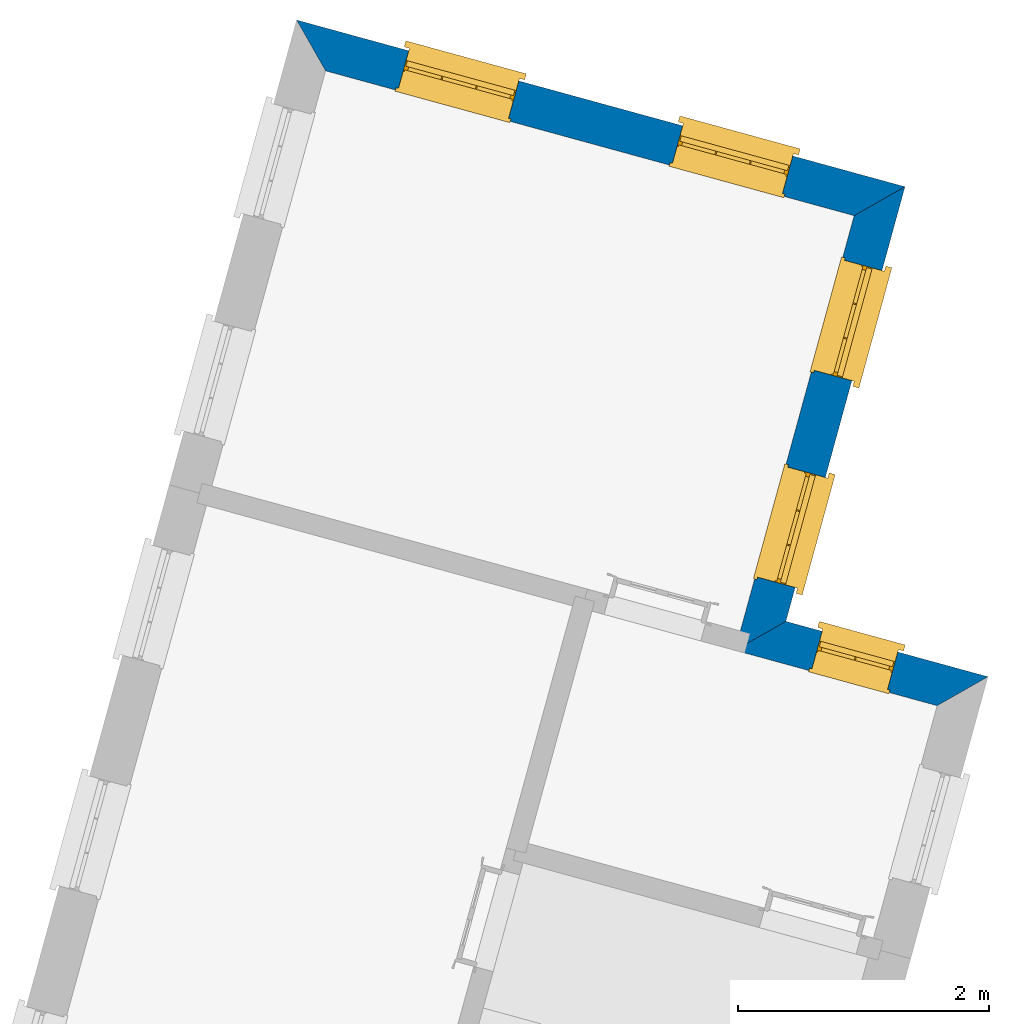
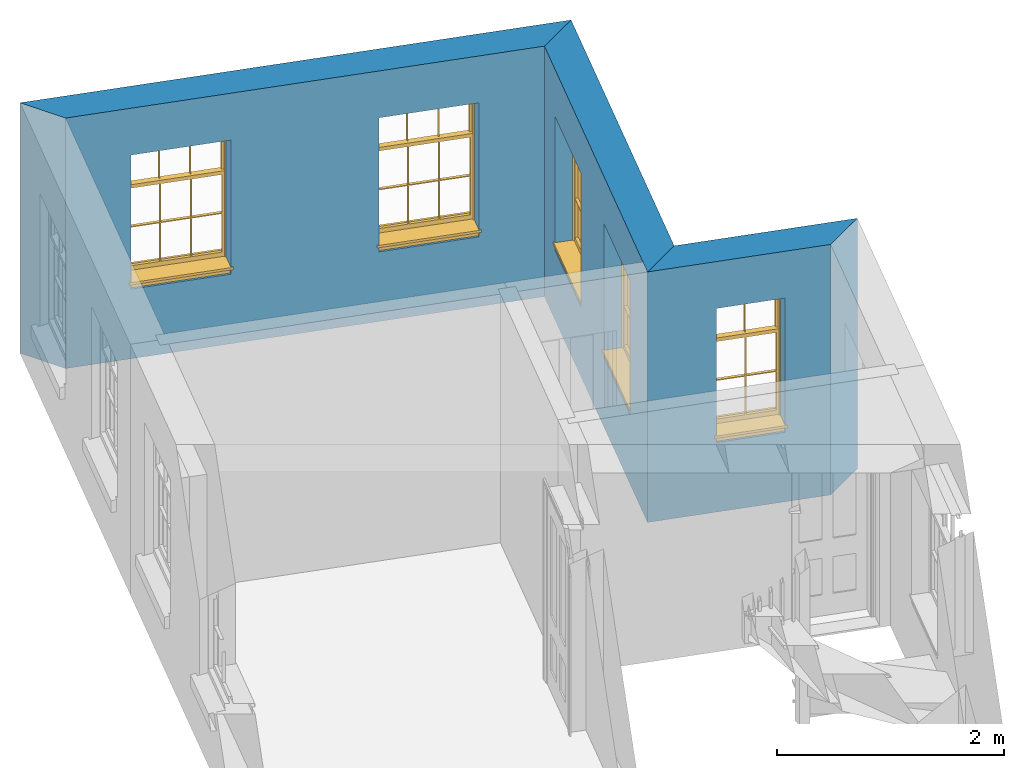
# One storey, part 3 of 4: 5 windows, 3 walls, 5 openings.
"""IFC4 building model written with IfcOpenShell, lengths in metres."""

from ifc_helpers import new_model, si_unit, frame, origin, origin_with_axes, place, context, subcontext, project, spatial, polyline, outline, extrude, faceted_brep, source, transform, mapped, material, layer, layer_set, layer_usage, type_object, type_shapes, element, fill, save


model = new_model("IFC4")

# Units and contexts
model_context = context("Model", 3, world=origin_with_axes())
body_context = subcontext(model_context, "Body", "Model", "MODEL_VIEW")
ifc_project = project(units=[si_unit("PLANEANGLEUNIT", "RADIAN"), si_unit("MASSUNIT", "GRAM", prefix="KILO"), si_unit("FORCEUNIT", "NEWTON", prefix="KILO"), si_unit("LENGTHUNIT", "METRE"), si_unit("AREAUNIT", "SQUARE_METRE"), si_unit("VOLUMEUNIT", "CUBIC_METRE")], contexts=[model_context, model_context])

# Sites, building, storey
site_1_placement = place(None, origin_with_axes())
site_1 = spatial("IfcSite", under=ifc_project, at=site_1_placement, Name="Tamar")
site_2_placement = place(site_1_placement, origin_with_axes())
site_2 = spatial("IfcSite", under=site_1, at=site_2_placement, Name="Site plot-28", CompositionType="ELEMENT")
building_placement = place(None, origin_with_axes())
building = spatial("IfcBuilding", under=site_2, at=building_placement, Name="Building plot-28", CompositionType="ELEMENT")
storey_placement = place(None, frame((0.0, 0.0, 27.15), z_axis=(0.0, 0.0, 1.0), x_axis=(1.0, 0.0, 0.0)))
storey = spatial("IfcBuildingStorey", under=building, at=storey_placement, Name="plot-28 1", CompositionType="ELEMENT", Elevation=27.15)

# Wall, opening, window
ifc_material = material(Name="Masonry")
ifc_layer = layer(ifc_material, 0.33, ventilated=False)
ifc_layer_set = layer_set([ifc_layer], Name="exterior_0.08_0.25")
ifc_layer_usage = layer_usage(ifc_layer_set, "AXIS2", "POSITIVE", -0.25)
wall_type = type_object("IfcWallType", Name="exterior_0.08_0.25", PredefinedType="SOLIDWALL", material=ifc_layer_set)
wall_1_placement = place(storey_placement, frame((266.580114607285, 263.559173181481, 0.0), z_axis=(0.0, 0.0, 1.0), x_axis=(-0.964452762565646, 0.264255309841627, 0.0)))
wall_1 = element("IfcWall", 1, at=wall_1_placement, inside=storey, type_object=wall_type, material=ifc_layer_usage, Name="exterior", context=body_context, shape_type="SweptSolid", body=[
    extrude(outline(polyline([(0.0799999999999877, 0.0800000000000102), (-0.24999999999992, -0.25000000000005), (1.42093948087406, -0.25000000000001), (1.75093948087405, 0.0799999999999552), (0.0799999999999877, 0.0800000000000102)])), origin_with_axes(), (0.0, 0.0, 1.0), 2.7),
])
opening_1_placement = place(wall_1_placement, frame((0.495939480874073, 0.0, 0.75)))
opening_1 = element("IfcOpeningElement", 2, at=opening_1_placement, cuts=wall_1, Name="My Opening", ObjectType="Opening", context=body_context, shape_type="SweptSolid", body=[
    extrude(outline(polyline([(0.0, -0.270000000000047), (0.62499999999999, -0.270000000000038), (0.625000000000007, 1.10000000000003), (1.63202784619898e-14, 1.10000000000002), (0.0, -0.270000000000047)])), origin_with_axes(), (0.0, 0.0, 1.0), 1.445),
])
window_type_1 = type_object("IfcWindowType", Name="sash_narrow_shorter", PartitioningType="DOUBLE_PANEL_HORIZONTAL", PredefinedType="NOTDEFINED")
shared_shape_1 = source(origin(), body_context, "Body", "Brep", [
    faceted_brep([(0.591875, 0.145, 0.999097), (0.591875, 0.145, 1.411875), (0.615, 0.145, 1.435), (0.033125, 0.145, 1.411875), (0.033125, 0.145, 0.999097), (0.01, 0.145, 1.435), (0.033125, 0.115, 1.411875), (0.01, 0.115, 1.435), (0.033125, 0.115, 0.999097), (0.591875, 0.115, 1.411875), (0.591875, 0.115, 0.999097), (0.615, 0.115, 1.435), (0.033125, 0.145, 0.960972), (0.01, 0.145, 0.960972), (0.033125, 0.145, 0.548195), (0.591875, 0.145, 0.960972), (0.591875, 0.145, 0.548195), (0.615, 0.145, 0.960972), (0.591875, 0.145, 0.538195), (0.591875, 0.145, 0.125417), (0.615, 0.145, 0.077167), (0.033125, 0.145, 0.125417), (0.033125, 0.145, 0.538195), (0.01, 0.145, 0.077167), (0.615, 0.115, 0.960972), (0.01, 0.115, 0.960972), (-0.0425, 0.0, 0.01), (-0.0425, -0.05, 0.001667), (0.0, 0.0, 0.01), (0.6675, 0.0, 0.01), (0.625, 0.0, 0.01), (0.6675, -0.05, 0.001667), (-0.02, 0.33, 0.077167), (0.0, 0.33, 0.077167), (-0.02, 0.36, 0.077167), (0.0, 0.19, 0.077167), (0.01, 0.19, 0.077167), (0.625, 0.19, 0.077167), (0.625, 0.33, 0.077167), (0.615, 0.19, 0.077167), (0.645, 0.33, 0.077167), (0.645, 0.36, 0.077167), (0.01, 0.145, 0.999097), (0.01, 0.175, 0.999097), (0.615, 0.145, 0.999097), (0.615, 0.175, 0.999097), (0.591875, 0.175, 0.125417), (0.591875, 0.175, 0.538195), (0.615, 0.175, 0.077167), (0.591875, 0.175, 0.548195), (0.591875, 0.175, 0.960972), (0.033125, 0.175, 0.125417), (0.01, 0.175, 0.077167), (0.033125, 0.175, 0.538195), (0.033125, 0.175, 0.960972), (0.033125, 0.175, 0.548195), (-0.02, 0.33, 0.052167), (-0.02, 0.36, 0.052167), (0.645, 0.36, 0.052167), (0.645, 0.33, 0.052167), (0.625, 0.33, 0.052167), (0.0, 0.33, 0.052167), (0.625, 0.1, 0.026667), (0.0, 0.1, 0.026667), (-0.0425, -0.05, -0.123333), (0.6675, -0.05, -0.123333), (-0.0425, 0.0, -0.123333), (0.6675, 0.0, -0.123333), (0.01, 0.19, 1.435), (0.615, 0.19, 1.435), (0.0, 0.19, 1.445), (0.625, 0.19, 1.445), (0.01, 0.1, 0.077167), (0.615, 0.1, 0.077167), (0.3175, 0.175, 0.548195), (0.3175, 0.145, 0.548195), (0.3175, 0.175, 0.538195), (0.3175, 0.175, 0.125417), (0.3075, 0.175, 0.125417), (0.3075, 0.175, 0.538195), (0.3075, 0.175, 0.548195), (0.3175, 0.175, 0.960972), (0.3075, 0.175, 0.960972), (0.3075, 0.145, 0.538195), (0.3075, 0.145, 0.125417), (0.3175, 0.145, 0.125417), (0.3175, 0.145, 0.538195), (0.3075, 0.145, 0.548195), (0.3075, 0.145, 0.960972), (0.3175, 0.145, 0.960972), (0.3175, 0.115, 1.411875), (0.3075, 0.115, 1.411875), (0.3075, 0.115, 0.999097), (0.3175, 0.115, 0.999097), (0.3175, 0.145, 0.999097), (0.3075, 0.145, 0.999097), (0.3075, 0.145, 1.411875), (0.3175, 0.145, 1.411875), (0.625, 0.1, 1.445), (0.615, 0.1, 1.435), (0.01, 0.1, 1.435), (0.0, 0.1, 1.445), (0.625, 0.0, 0.0), (0.0, 0.0, 0.0), (0.625, 0.33, 0.0), (0.0, 0.33, 0.0)], [[[0, 1, 2]], [[3, 4, 5]], [[6, 7, 8]], [[9, 10, 11]], [[12, 13, 14]], [[15, 16, 17]], [[18, 19, 20]], [[21, 22, 23]], [[24, 15, 17]], [[13, 12, 25]], [[26, 27, 28]], [[29, 30, 31]], [[32, 33, 34]], [[35, 36, 33]], [[37, 38, 39]], [[40, 41, 38]], [[42, 4, 43]], [[44, 45, 0]], [[46, 47, 48]], [[49, 50, 45]], [[51, 52, 53]], [[54, 55, 43]], [[38, 33, 36, 39]], [[41, 34, 33, 38]], [[56, 32, 34, 57]], [[57, 34, 41, 58]], [[58, 41, 40, 59]], [[57, 58, 60, 61]], [[52, 48, 39, 36]], [[62, 63, 28, 30]], [[27, 31, 30, 28]], [[27, 64, 65, 31]], [[66, 67, 65, 64]], [[2, 5, 68, 69]], [[68, 70, 71, 69]], [[20, 23, 72, 73]], [[73, 72, 63, 62]], [[16, 49, 74, 75]], [[76, 77, 78, 79]], [[80, 79, 53, 55]], [[81, 74, 80, 82]], [[76, 74, 49, 47]], [[83, 79, 78, 84]], [[22, 53, 79, 83]], [[85, 77, 76, 86]], [[87, 80, 55, 14]], [[88, 82, 80, 87]], [[75, 74, 81, 89]], [[86, 76, 47, 18]], [[86, 18, 16, 75]], [[86, 83, 84, 85]], [[87, 14, 22, 83]], [[89, 88, 87, 75]], [[90, 91, 92, 93]], [[94, 95, 96, 97]], [[91, 96, 95, 92]], [[93, 94, 97, 90]], [[74, 76, 79, 80]], [[75, 87, 83, 86]], [[84, 78, 51, 21]], [[6, 3, 96, 91]], [[90, 97, 1, 9]], [[19, 46, 77, 85]], [[26, 66, 64, 27]], [[29, 31, 65, 67]], [[25, 24, 93, 92]], [[11, 7, 91, 90]], [[77, 48, 52, 78]], [[43, 45, 81, 82]], [[45, 43, 95, 94]], [[5, 2, 97, 96]], [[24, 25, 88, 89]], [[42, 5, 4]], [[2, 44, 0]], [[49, 45, 48, 47]], [[52, 43, 55, 53]], [[14, 13, 23, 22]], [[20, 17, 16, 18]], [[24, 11, 10]], [[25, 8, 7]], [[8, 4, 3, 6]], [[9, 1, 0, 10]], [[15, 50, 49, 16]], [[18, 47, 46, 19]], [[21, 51, 53, 22]], [[14, 55, 54, 12]], [[44, 2, 69, 45]], [[68, 5, 42, 43]], [[36, 35, 70, 68]], [[39, 69, 71, 37]], [[62, 98, 99, 73]], [[63, 72, 100, 101]], [[8, 92, 95, 4]], [[93, 10, 0, 94]], [[82, 88, 12, 54]], [[17, 20, 73, 24]], [[72, 23, 13, 25]], [[52, 36, 68, 43]], [[69, 39, 48, 45]], [[11, 24, 73, 99]], [[7, 100, 72, 25]], [[84, 21, 23]], [[20, 19, 85]], [[20, 85, 84, 23]], [[24, 10, 93]], [[92, 8, 25]], [[90, 9, 11]], [[7, 6, 91]], [[96, 3, 5]], [[2, 1, 97]], [[11, 99, 100, 7]], [[98, 101, 100, 99]], [[82, 54, 43]], [[50, 81, 45]], [[15, 89, 81, 50]], [[77, 46, 48]], [[52, 51, 78]], [[89, 15, 24]], [[25, 12, 88]], [[43, 4, 95]], [[94, 0, 45]], [[71, 70, 101, 98]], [[70, 35, 63, 101]], [[98, 62, 37, 71]], [[102, 67, 66, 103]], [[60, 58, 59]], [[38, 60, 59, 40]], [[61, 56, 57]], [[32, 56, 61, 33]], [[61, 60, 104, 105]], [[62, 60, 38, 37]], [[102, 104, 60, 62]], [[33, 61, 63, 35]], [[61, 105, 103, 63]], [[104, 102, 103, 105]], [[28, 103, 66, 26]], [[63, 103, 28]], [[29, 67, 102, 30]], [[30, 102, 62]]]),
])
type_shapes(window_type_1, [shared_shape_1])
window_1_placement = place(storey_placement, frame((266.173153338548, 263.950630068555, 0.75), z_axis=(0.0, 0.0, 1.0), x_axis=(-0.602782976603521, 0.165159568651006, 0.0)))
window_1 = element("IfcWindow", 3, at=window_1_placement, inside=storey, type_object=window_type_1, Name="circulation outside window", OverallHeight=1.445, OverallWidth=0.625, context=body_context, shape_type="MappedRepresentation", body=[
    mapped(shared_shape_1, transform((0.0, 0.0, 0.0), scale=1.0)),
])
fill(opening_1, window_1)

# Wall, openings, windows
wall_2_placement = place(storey_placement, frame((264.968572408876, 264.000727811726, 0.0), z_axis=(0.0, 0.0, 1.0), x_axis=(0.264255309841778, 0.964452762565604, 0.0)))
wall_2 = element("IfcWall", 4, at=wall_2_placement, inside=storey, type_object=wall_type, material=ifc_layer_usage, Name="exterior", context=body_context, shape_type="SweptSolid", body=[
    extrude(outline(polyline([(-0.079999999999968, 0.0799999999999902), (0.250000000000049, -0.249999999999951), (3.84326696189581, -0.24999999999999), (3.51326696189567, 0.0799999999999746), (-0.079999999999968, 0.0799999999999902)])), origin_with_axes(), (0.0, 0.0, 1.0), 2.7),
])
opening_2_placement = place(wall_2_placement, frame((0.529950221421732, 0.0, 0.75)))
opening_2 = element("IfcOpeningElement", 5, at=opening_2_placement, cuts=wall_2, Name="My Opening", ObjectType="Opening", context=body_context, shape_type="SweptSolid", body=[
    extrude(outline(polyline([(0.0, -0.270000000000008), (0.910000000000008, -0.269999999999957), (0.910000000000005, 1.10000000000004), (-3.44169137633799e-15, 1.09999999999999), (0.0, -0.270000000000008)])), origin_with_axes(), (0.0, 0.0, 1.0), 1.445),
])
opening_3_placement = place(wall_2_placement, frame((2.23995022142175, 0.0, 0.75)))
opening_3 = element("IfcOpeningElement", 6, at=opening_3_placement, cuts=wall_2, Name="My Opening", ObjectType="Opening", context=body_context, shape_type="SweptSolid", body=[
    extrude(outline(polyline([(0.0, -0.270000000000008), (0.910000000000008, -0.269999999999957), (0.910000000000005, 1.10000000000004), (-3.10862446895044e-15, 1.09999999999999), (0.0, -0.270000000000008)])), origin_with_axes(), (0.0, 0.0, 1.0), 1.445),
])
window_type_2 = type_object("IfcWindowType", Name="sash_shorter", PartitioningType="DOUBLE_PANEL_HORIZONTAL", PredefinedType="NOTDEFINED")
shared_shape_2 = source(origin(), body_context, "Body", "Brep", [
    faceted_brep([(0.876875, 0.145, 0.999097), (0.876875, 0.145, 1.411875), (0.9, 0.145, 1.435), (0.033125, 0.145, 1.411875), (0.033125, 0.145, 0.999097), (0.01, 0.145, 1.435), (0.033125, 0.115, 1.411875), (0.01, 0.115, 1.435), (0.033125, 0.115, 0.999097), (0.876875, 0.115, 1.411875), (0.876875, 0.115, 0.999097), (0.9, 0.115, 1.435), (0.033125, 0.145, 0.960972), (0.01, 0.145, 0.960972), (0.033125, 0.145, 0.548195), (0.876875, 0.145, 0.960972), (0.876875, 0.145, 0.548195), (0.9, 0.145, 0.960972), (0.876875, 0.145, 0.538195), (0.876875, 0.145, 0.125417), (0.9, 0.145, 0.077167), (0.033125, 0.145, 0.125417), (0.033125, 0.145, 0.538195), (0.01, 0.145, 0.077167), (0.9, 0.115, 0.960972), (0.01, 0.115, 0.960972), (-0.0425, 0.0, 0.01), (-0.0425, -0.05, 0.001667), (0.0, 0.0, 0.01), (0.9525, 0.0, 0.01), (0.91, 0.0, 0.01), (0.9525, -0.05, 0.001667), (-0.02, 0.33, 0.077167), (0.0, 0.33, 0.077167), (-0.02, 0.36, 0.077167), (0.0, 0.19, 0.077167), (0.01, 0.19, 0.077167), (0.91, 0.19, 0.077167), (0.91, 0.33, 0.077167), (0.9, 0.19, 0.077167), (0.93, 0.33, 0.077167), (0.93, 0.36, 0.077167), (0.01, 0.145, 0.999097), (0.01, 0.175, 0.999097), (0.9, 0.145, 0.999097), (0.9, 0.175, 0.999097), (0.876875, 0.175, 0.125417), (0.876875, 0.175, 0.538195), (0.9, 0.175, 0.077167), (0.876875, 0.175, 0.548195), (0.876875, 0.175, 0.960972), (0.033125, 0.175, 0.125417), (0.01, 0.175, 0.077167), (0.033125, 0.175, 0.538195), (0.033125, 0.175, 0.960972), (0.033125, 0.175, 0.548195), (-0.02, 0.33, 0.052167), (-0.02, 0.36, 0.052167), (0.93, 0.36, 0.052167), (0.93, 0.33, 0.052167), (0.91, 0.33, 0.052167), (0.0, 0.33, 0.052167), (0.91, 0.1, 0.026667), (0.0, 0.1, 0.026667), (-0.0425, -0.05, -0.123333), (0.9525, -0.05, -0.123333), (-0.0425, 0.0, -0.123333), (0.9525, 0.0, -0.123333), (0.01, 0.19, 1.435), (0.9, 0.19, 1.435), (0.0, 0.19, 1.445), (0.91, 0.19, 1.445), (0.01, 0.1, 0.077167), (0.9, 0.1, 0.077167), (0.592292, 0.145, 0.125417), (0.592292, 0.175, 0.125417), (0.317708, 0.175, 0.125417), (0.317708, 0.145, 0.125417), (0.592292, 0.145, 0.548195), (0.317708, 0.145, 0.548195), (0.317708, 0.145, 0.538195), (0.592292, 0.145, 0.538195), (0.592292, 0.175, 0.548195), (0.317708, 0.175, 0.548195), (0.602292, 0.175, 0.548195), (0.602292, 0.145, 0.548195), (0.317708, 0.175, 0.538195), (0.307708, 0.175, 0.125417), (0.307708, 0.175, 0.538195), (0.602292, 0.175, 0.538195), (0.602292, 0.175, 0.125417), (0.592292, 0.175, 0.538195), (0.307708, 0.175, 0.548195), (0.317708, 0.175, 0.960972), (0.307708, 0.175, 0.960972), (0.602292, 0.175, 0.960972), (0.592292, 0.175, 0.960972), (0.307708, 0.145, 0.538195), (0.307708, 0.145, 0.125417), (0.307708, 0.145, 0.548195), (0.307708, 0.145, 0.960972), (0.592292, 0.145, 0.960972), (0.317708, 0.145, 0.960972), (0.602292, 0.145, 0.960972), (0.602292, 0.145, 0.538195), (0.602292, 0.145, 0.125417), (0.317708, 0.115, 1.411875), (0.307708, 0.115, 1.411875), (0.307708, 0.115, 0.999097), (0.317708, 0.115, 0.999097), (0.602292, 0.115, 1.411875), (0.592292, 0.115, 1.411875), (0.592292, 0.115, 0.999097), (0.602292, 0.115, 0.999097), (0.317708, 0.145, 0.999097), (0.307708, 0.145, 0.999097), (0.307708, 0.145, 1.411875), (0.317708, 0.145, 1.411875), (0.602292, 0.145, 0.999097), (0.592292, 0.145, 0.999097), (0.592292, 0.145, 1.411875), (0.602292, 0.145, 1.411875), (0.91, 0.1, 1.445), (0.9, 0.1, 1.435), (0.01, 0.1, 1.435), (0.0, 0.1, 1.445), (0.91, 0.0, 0.0), (0.0, 0.0, 0.0), (0.91, 0.33, 0.0), (0.0, 0.33, 0.0)], [[[0, 1, 2]], [[3, 4, 5]], [[6, 7, 8]], [[9, 10, 11]], [[12, 13, 14]], [[15, 16, 17]], [[18, 19, 20]], [[21, 22, 23]], [[24, 15, 17]], [[13, 12, 25]], [[26, 27, 28]], [[29, 30, 31]], [[32, 33, 34]], [[35, 36, 33]], [[37, 38, 39]], [[40, 41, 38]], [[42, 4, 43]], [[44, 45, 0]], [[46, 47, 48]], [[49, 50, 45]], [[51, 52, 53]], [[54, 55, 43]], [[38, 33, 36, 39]], [[41, 34, 33, 38]], [[56, 32, 34, 57]], [[57, 34, 41, 58]], [[58, 41, 40, 59]], [[57, 58, 60, 61]], [[52, 48, 39, 36]], [[62, 63, 28, 30]], [[27, 31, 30, 28]], [[27, 64, 65, 31]], [[66, 67, 65, 64]], [[2, 5, 68, 69]], [[68, 70, 71, 69]], [[20, 23, 72, 73]], [[73, 72, 63, 62]], [[74, 75, 76, 77]], [[78, 79, 80, 81]], [[78, 82, 83, 79]], [[16, 49, 84, 85]], [[86, 76, 87, 88]], [[89, 90, 75, 91]], [[92, 88, 53, 55]], [[82, 91, 86, 83]], [[93, 83, 92, 94]], [[95, 84, 82, 96]], [[89, 84, 49, 47]], [[97, 88, 87, 98]], [[22, 53, 88, 97]], [[81, 91, 75, 74]], [[80, 86, 91, 81]], [[77, 76, 86, 80]], [[99, 92, 55, 14]], [[100, 94, 92, 99]], [[101, 96, 82, 78]], [[79, 83, 93, 102]], [[85, 84, 95, 103]], [[104, 89, 47, 18]], [[105, 90, 89, 104]], [[104, 18, 16, 85]], [[80, 97, 98, 77]], [[104, 81, 74, 105]], [[103, 101, 78, 85]], [[99, 14, 22, 97]], [[102, 100, 99, 79]], [[106, 107, 108, 109]], [[110, 111, 112, 113]], [[114, 115, 116, 117]], [[118, 119, 120, 121]], [[107, 116, 115, 108]], [[111, 120, 119, 112]], [[109, 114, 117, 106]], [[113, 118, 121, 110]], [[85, 78, 81, 104]], [[84, 89, 91, 82]], [[83, 86, 88, 92]], [[79, 99, 97, 80]], [[109, 112, 119, 114]], [[102, 93, 96, 101]], [[106, 117, 120, 111]], [[98, 87, 51, 21]], [[6, 3, 116, 107]], [[110, 121, 1, 9]], [[19, 46, 90, 105]], [[26, 66, 64, 27]], [[29, 31, 65, 67]], [[25, 24, 112, 109]], [[11, 7, 106, 111]], [[75, 48, 52, 76]], [[43, 45, 96, 93]], [[45, 43, 114, 119]], [[5, 2, 120, 117]], [[24, 25, 102, 101]], [[42, 5, 4]], [[2, 44, 0]], [[49, 45, 48, 47]], [[52, 43, 55, 53]], [[14, 13, 23, 22]], [[20, 17, 16, 18]], [[24, 11, 10]], [[25, 8, 7]], [[8, 4, 3, 6]], [[9, 1, 0, 10]], [[15, 50, 49, 16]], [[18, 47, 46, 19]], [[21, 51, 53, 22]], [[14, 55, 54, 12]], [[44, 2, 69, 45]], [[68, 5, 42, 43]], [[36, 35, 70, 68]], [[39, 69, 71, 37]], [[62, 122, 123, 73]], [[63, 72, 124, 125]], [[8, 108, 115, 4]], [[113, 10, 0, 118]], [[94, 100, 12, 54]], [[17, 20, 73, 24]], [[72, 23, 13, 25]], [[52, 36, 68, 43]], [[69, 39, 48, 45]], [[11, 24, 73, 123]], [[7, 124, 72, 25]], [[23, 77, 98]], [[98, 21, 23]], [[105, 74, 20]], [[20, 19, 105]], [[20, 74, 77, 23]], [[113, 112, 24]], [[24, 10, 113]], [[25, 109, 108]], [[108, 8, 25]], [[110, 9, 11]], [[11, 111, 110]], [[7, 6, 107]], [[107, 106, 7]], [[5, 117, 116]], [[116, 3, 5]], [[121, 120, 2]], [[2, 1, 121]], [[11, 123, 124, 7]], [[122, 125, 124, 123]], [[43, 93, 94]], [[94, 54, 43]], [[96, 45, 95]], [[50, 95, 45]], [[15, 103, 95, 50]], [[48, 75, 90]], [[90, 46, 48]], [[87, 76, 52]], [[52, 51, 87]], [[103, 15, 24]], [[24, 101, 103]], [[100, 102, 25]], [[25, 12, 100]], [[115, 114, 43]], [[43, 4, 115]], [[118, 0, 45]], [[45, 119, 118]], [[71, 70, 125, 122]], [[70, 35, 63, 125]], [[122, 62, 37, 71]], [[126, 67, 66, 127]], [[60, 58, 59]], [[38, 60, 59, 40]], [[61, 56, 57]], [[32, 56, 61, 33]], [[61, 60, 128, 129]], [[62, 60, 38, 37]], [[126, 128, 60, 62]], [[33, 61, 63, 35]], [[61, 129, 127, 63]], [[128, 126, 127, 129]], [[28, 127, 66, 26]], [[63, 127, 28]], [[29, 67, 126, 30]], [[30, 126, 62]]]),
])
type_shapes(window_type_2, [shared_shape_2])
window_2_placement = place(storey_placement, frame((265.369016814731, 264.440490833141, 0.75), z_axis=(0.0, 0.0, 1.0), x_axis=(0.240472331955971, 0.877652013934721, 0.0)))
window_2 = element("IfcWindow", 7, at=window_2_placement, inside=storey, type_object=window_type_2, Name="bedroom outside window", OverallHeight=1.445, OverallWidth=0.91, context=body_context, shape_type="MappedRepresentation", body=[
    mapped(shared_shape_2, transform((0.0, 0.0, 0.0), scale=1.0)),
])
fill(opening_2, window_2)
window_3_placement = place(storey_placement, frame((265.820893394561, 266.089705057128, 0.75), z_axis=(0.0, 0.0, 1.0), x_axis=(0.240472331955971, 0.877652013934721, 0.0)))
window_3 = element("IfcWindow", 8, at=window_3_placement, inside=storey, type_object=window_type_2, Name="bedroom outside window", OverallHeight=1.445, OverallWidth=0.91, context=body_context, shape_type="MappedRepresentation", body=[
    mapped(shared_shape_2, transform((0.0, 0.0, 0.0), scale=1.0)),
])
fill(opening_3, window_3)

wall_3_placement = place(storey_placement, frame((265.918112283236, 267.466264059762, 0.0), z_axis=(0.0, 0.0, 1.0), x_axis=(-0.964452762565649, 0.264255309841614, 0.0)))
wall_3 = element("IfcWall", 9, at=wall_3_placement, inside=storey, type_object=wall_type, material=ifc_layer_usage, Name="exterior", context=body_context, shape_type="SweptSolid", body=[
    extrude(outline(polyline([(0.0799999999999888, 0.0800000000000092), (-0.250000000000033, -0.250000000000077), (4.77974619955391, -0.249999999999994), (4.4497461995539, 0.0799999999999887), (0.0799999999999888, 0.0800000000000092)])), origin_with_axes(), (0.0, 0.0, 1.0), 2.7),
])
opening_4_placement = place(wall_3_placement, frame((0.677436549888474, 0.0, 0.75)))
opening_4 = element("IfcOpeningElement", 10, at=opening_4_placement, cuts=wall_3, Name="My Opening", ObjectType="Opening", context=body_context, shape_type="SweptSolid", body=[
    extrude(outline(polyline([(0.0, -0.270000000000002), (0.909999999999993, -0.27000000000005), (0.909999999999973, 1.1), (-2.04281036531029e-14, 1.10000000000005), (0.0, -0.270000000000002)])), origin_with_axes(), (0.0, 0.0, 1.0), 1.445),
])
opening_5_placement = place(wall_3_placement, frame((2.94230964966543, 0.0, 0.75)))
opening_5 = element("IfcOpeningElement", 11, at=opening_5_placement, cuts=wall_3, Name="My Opening", ObjectType="Opening", context=body_context, shape_type="SweptSolid", body=[
    extrude(outline(polyline([(0.0, -0.270000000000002), (0.909999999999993, -0.27000000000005), (0.909999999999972, 1.1), (-2.04281036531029e-14, 1.10000000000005), (0.0, -0.270000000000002)])), origin_with_axes(), (0.0, 0.0, 1.0), 1.445),
])
window_4_placement = place(storey_placement, frame((265.33610566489, 267.905682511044, 0.75), z_axis=(0.0, 0.0, 1.0), x_axis=(-0.877652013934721, 0.240472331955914, 0.0)))
window_4 = element("IfcWindow", 12, at=window_4_placement, inside=storey, type_object=window_type_2, Name="bedroom outside window", OverallHeight=1.445, OverallWidth=0.91, context=body_context, shape_type="MappedRepresentation", body=[
    mapped(shared_shape_2, transform((0.0, 0.0, 0.0), scale=1.0)),
])
fill(opening_4, window_4)
window_5_placement = place(storey_placement, frame((263.15174254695, 268.504187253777, 0.75), z_axis=(0.0, 0.0, 1.0), x_axis=(-0.877652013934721, 0.240472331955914, 0.0)))
window_5 = element("IfcWindow", 13, at=window_5_placement, inside=storey, type_object=window_type_2, Name="bedroom outside window", OverallHeight=1.445, OverallWidth=0.91, context=body_context, shape_type="MappedRepresentation", body=[
    mapped(shared_shape_2, transform((0.0, 0.0, 0.0), scale=1.0)),
])
fill(opening_5, window_5)

save(model, "model.ifc")
